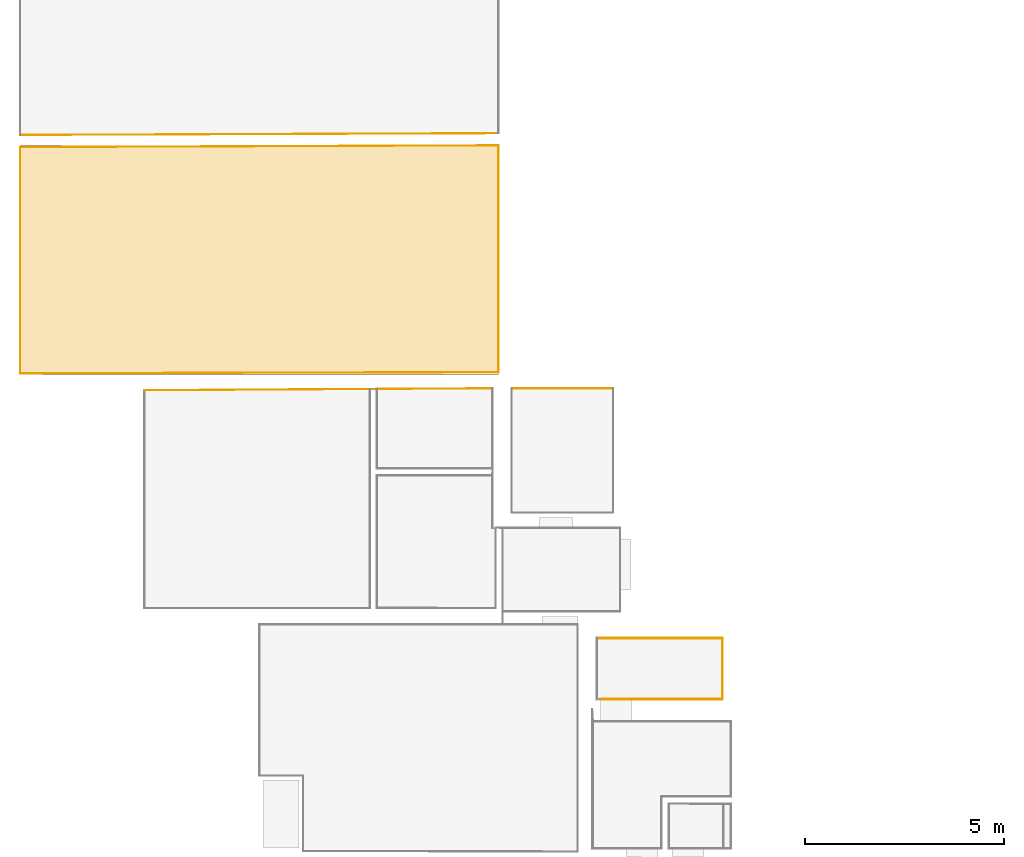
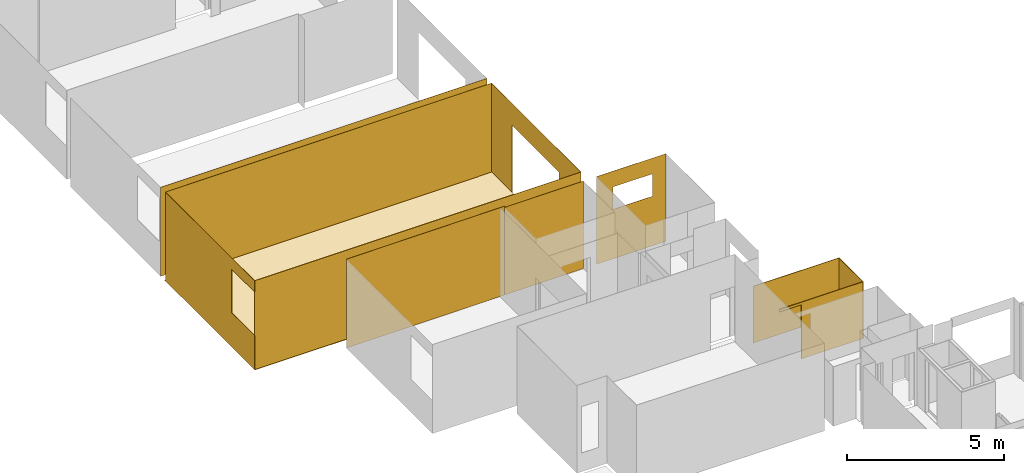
# One storey, part 15 of 33: 12 coverings, 4 openings.
"""IFC2X3 building model written with IfcOpenShell, lengths in millimetres."""

import ifcopenshell
import ifcopenshell.guid

model = None  # the IFC model being written
_history = None  # IfcOwnerHistory: only IFC2X3 demands one
_inside = {}  # id of a spatial element -> (the spatial element, [elements in it])
_under = {}  # id of a project, library or spatial element -> (it, [spatial elements below it])
_declared = {}  # id of a project -> (the project, [libraries it declares])
_typed = {}  # id of a type object -> (the type object, [elements of that type])
_made_of = {}  # id of a material, layer set ... -> (it, [elements and type objects made of it])


def new_model(schema):
    """Start an empty IFC model of exactly this schema.

    Asked for "IFC4X3", IfcOpenShell would pick the latest addendum, in which some entities
    have other attributes; the version numbers below select the first issue.
    IFC2X3 requires an IfcOwnerHistory on every rooted entity: one is made here for all.
    """
    global model, _history
    if schema == "IFC4X3":
        model = ifcopenshell.file(schema_version=(4, 3, 0, 0))
    else:
        model = ifcopenshell.file(schema=schema)
    _inside.clear()
    _under.clear()
    _declared.clear()
    _typed.clear()
    _made_of.clear()
    _history = None
    if model.schema == "IFC2X3":
        org = make("IfcOrganization", Name="unknown")
        user = make(
            "IfcPersonAndOrganization",
            ThePerson=make("IfcPerson", FamilyName="unknown"),
            TheOrganization=org,
        )
        app = make(
            "IfcApplication",
            ApplicationDeveloper=org,
            Version="unknown",
            ApplicationFullName="unknown",
            ApplicationIdentifier="unknown",
        )
        _history = make(
            "IfcOwnerHistory",
            OwningUser=user,
            OwningApplication=app,
            ChangeAction="ADDED",
            CreationDate=0,
        )
    return model


def make(cls, **values):
    """One entity of the class cls with the attributes given. An attribute that is None is left unset."""
    return model.create_entity(
        cls, **{name: value for name, value in values.items() if value is not None}
    )


def entity(cls, *values):
    """Any entity or typed value of the class cls, its attributes in the order of the schema. None: left unset."""
    e = model.create_entity(cls)
    for i, value in enumerate(values):
        if value is not None:
            e[i] = value
    return e


def rooted(cls, **values):
    """An entity with a GlobalId (a new one), such as an element, a storey or a relation."""
    return make(cls, GlobalId=ifcopenshell.guid.new(), OwnerHistory=_history, **values)


def si_unit(unit_type, name, prefix=None):
    """IfcSIUnit, for example si_unit("LENGTHUNIT", "METRE", prefix="MILLI")."""
    return make("IfcSIUnit", UnitType=unit_type, Prefix=prefix, Name=name)


def converted_unit(unit_type, name, factor, base, dimensions=None, offset=None):
    """IfcConversionBasedUnit, such as the inch: factor (a typed value) times the base unit."""
    return make(
        "IfcConversionBasedUnit"
        if offset is None
        else "IfcConversionBasedUnitWithOffset",
        ConversionOffset=offset,
        Dimensions=None
        if dimensions is None
        else entity("IfcDimensionalExponents", *dimensions),
        UnitType=unit_type,
        Name=name,
        ConversionFactor=make(
            "IfcMeasureWithUnit", ValueComponent=factor, UnitComponent=base
        ),
    )


def derived_unit(unit_type, elements):
    """IfcDerivedUnit: a product of units, each with its exponent."""
    return make(
        "IfcDerivedUnit",
        Elements=[
            make("IfcDerivedUnitElement", Unit=unit, Exponent=power)
            for unit, power in elements
        ],
        UnitType=unit_type,
    )


def money_unit(currency):
    """IfcMonetaryUnit."""
    return make("IfcMonetaryUnit", Currency=currency)


def assignment(units):
    """IfcUnitAssignment: the units of a project."""
    return None if units is None else make("IfcUnitAssignment", Units=units)


def point(xyz):
    """IfcCartesianPoint."""
    return None if xyz is None else make("IfcCartesianPoint", Coordinates=xyz)


def direction(xyz):
    """IfcDirection."""
    return None if xyz is None else make("IfcDirection", DirectionRatios=xyz)


def frame(location, z_axis=None, x_axis=None):
    """IfcAxis2Placement3D, a coordinate frame: its origin and axes. An axis left out is left unset."""
    return make(
        "IfcAxis2Placement3D",
        Location=point(location),
        Axis=direction(z_axis),
        RefDirection=direction(x_axis),
    )


def frame_2d(location, x_axis=None):
    """IfcAxis2Placement2D, a coordinate frame in the plane: its origin and x axis."""
    return make(
        "IfcAxis2Placement2D", Location=point(location), RefDirection=direction(x_axis)
    )


def origin_with_axes():
    """The frame at (0, 0, 0) with the z axis (0, 0, 1) and the x axis (1, 0, 0) written out."""
    return frame((0.0, 0.0, 0.0), z_axis=(0.0, 0.0, 1.0), x_axis=(1.0, 0.0, 0.0))


def origin_2d_with_axis():
    """The frame at (0, 0) in the plane with the x axis (1, 0) written out."""
    return frame_2d((0.0, 0.0), x_axis=(1.0, 0.0))


def place(relative_to, where):
    """IfcLocalPlacement: puts the frame where relative to a parent placement (None: the world)."""
    return make(
        "IfcLocalPlacement", PlacementRelTo=relative_to, RelativePlacement=where
    )


def context(
    kind, dimensions, precision=None, world=None, true_north=None, identifier=None
):
    """IfcGeometricRepresentationContext, for example the 3D "Model" context."""
    return make(
        "IfcGeometricRepresentationContext",
        ContextIdentifier=identifier,
        ContextType=kind,
        CoordinateSpaceDimension=dimensions,
        Precision=precision,
        WorldCoordinateSystem=world,
        TrueNorth=true_north,
    )


def subcontext(parent, identifier, kind, view, scale=None):
    """IfcGeometricRepresentationSubContext, for example "Body" below "Model"."""
    return make(
        "IfcGeometricRepresentationSubContext",
        ContextIdentifier=identifier,
        ContextType=kind,
        ParentContext=parent,
        TargetScale=scale,
        TargetView=view,
    )


def project(units=None, contexts=None):
    """IfcProject with its units and contexts."""
    return rooted(
        "IfcProject",
        Name="project",
        RepresentationContexts=contexts,
        UnitsInContext=assignment(units),
    )


def spatial(cls, under=None, at=None, **own):
    """A site, building, storey or space (cls), placed at a placement, below another one or the project."""
    s = rooted(cls, ObjectPlacement=at, **own)
    if under is not None:
        _under.setdefault(under.id(), (under, []))[1].append(s)
    return s


def polyline(points):
    """IfcPolyline through the points."""
    return make("IfcPolyline", Points=[point(p) for p in points])


def profile(cls, at=None, kind="AREA", **sizes):
    """A parametric profile (cls). Its sizes go by their IFC names, for example OverallWidth=200.0."""
    return make(cls, ProfileType=kind, Position=at, **sizes)


def rectangle(**sizes):
    """IfcRectangleProfileDef."""
    return profile("IfcRectangleProfileDef", **sizes)


def outline(outer, holes=None, kind="AREA"):
    """IfcArbitraryClosedProfileDef: a profile drawn as a closed curve; with holes, ...WithVoids."""
    if holes is None:
        return make("IfcArbitraryClosedProfileDef", ProfileType=kind, OuterCurve=outer)
    return make(
        "IfcArbitraryProfileDefWithVoids",
        ProfileType=kind,
        OuterCurve=outer,
        InnerCurves=holes,
    )


def extrude(swept, where, along, depth):
    """IfcExtrudedAreaSolid: the profile swept, set in the frame where, extruded along a direction by depth."""
    return make(
        "IfcExtrudedAreaSolid",
        SweptArea=swept,
        Position=where,
        ExtrudedDirection=direction(along),
        Depth=depth,
    )


def shape(context_of_items, identifier, shape_type, items):
    """IfcShapeRepresentation: the items that make up one representation, for example the "Body"."""
    return make(
        "IfcShapeRepresentation",
        ContextOfItems=context_of_items,
        RepresentationIdentifier=identifier,
        RepresentationType=shape_type,
        Items=items,
    )


def material(Name=None, Category=None):
    """IfcMaterial."""
    return make("IfcMaterial", Name=Name, Category=Category)


def made_of(thing, what):
    """Note that an element or type object is made of a material, layer set ...; save() writes the relation."""
    if what is not None:
        _made_of.setdefault(what.id(), (what, []))[1].append(thing)
    return thing


def type_object(cls, material=None, **own):
    """A type object (cls), such as IfcWallType, which elements share."""
    return made_of(rooted(cls, **own), material)


def element(
    cls,
    number,
    at=None,
    inside=None,
    cuts=None,
    type_object=None,
    material=None,
    context=None,
    identifier="Body",
    shape_type=None,
    held_by="IfcProductDefinitionShape",
    body=None,
    shapes=None,
    **own,
):
    """One element of the class cls, such as IfcWall. Its Tag is "e" and its number.

    at: its placement. inside: the storey or other place that contains it. cuts: it is an
    opening in that element (IfcRelVoidsElement). A single representation is given by context,
    identifier, shape_type and body (its items); several are given by shapes. held_by: the class
    of the entity that holds the representations. save() writes the other relations.
    """
    e = rooted(cls, Tag="e%d" % number, ObjectPlacement=at, **own)
    if body is not None:
        shapes = [shape(context, identifier, shape_type, body)]
    if shapes is not None:
        e.Representation = make(held_by, Representations=shapes)
    if inside is not None:
        _inside.setdefault(inside.id(), (inside, []))[1].append(e)
    if cuts is not None:
        rooted(
            "IfcRelVoidsElement", RelatingBuildingElement=cuts, RelatedOpeningElement=e
        )
    if type_object is not None:
        _typed.setdefault(type_object.id(), (type_object, []))[1].append(e)
    return made_of(e, material)


def aggregate(whole, parts):
    """IfcRelAggregates: a whole, such as a stair, and the parts it consists of."""
    return rooted("IfcRelAggregates", RelatingObject=whole, RelatedObjects=parts)


def save(model, path):
    """Write the relations noted so far, then the file.

    IfcRelAggregates (storeys below a building ...), IfcRelContainedInSpatialStructure (elements
    in a storey), IfcRelDefinesByType, IfcRelAssociatesMaterial and IfcRelDeclares: one each for
    every whole, place, type object, material and project.
    """
    for whole, parts in _under.values():
        aggregate(whole, parts)
    for where, things in _inside.values():
        rooted(
            "IfcRelContainedInSpatialStructure",
            RelatedElements=things,
            RelatingStructure=where,
        )
    for kind, things in _typed.values():
        rooted("IfcRelDefinesByType", RelatedObjects=things, RelatingType=kind)
    for what, things in _made_of.values():
        rooted("IfcRelAssociatesMaterial", RelatedObjects=things, RelatingMaterial=what)
    for by, libraries in _declared.values():
        rooted("IfcRelDeclares", RelatingContext=by, RelatedDefinitions=libraries)
    model.write(path)


model = new_model("IFC2X3")

# Units and contexts
model_context = context("Model", 3, precision=0.01, world=origin_with_axes(), true_north=direction((0.0, 1.0)))
body_context = subcontext(model_context, "Body", "Model", "MODEL_VIEW")
ifc_project = project(units=[si_unit("LENGTHUNIT", "METRE", prefix="MILLI"), si_unit("AREAUNIT", "SQUARE_METRE"), si_unit("VOLUMEUNIT", "CUBIC_METRE"), converted_unit("PLANEANGLEUNIT", "DEGREE", entity("IfcPlaneAngleMeasure", 0.0174532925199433), si_unit("PLANEANGLEUNIT", "RADIAN"), dimensions=[0, 0, 0, 0, 0, 0, 0]), money_unit("EUR"), converted_unit("TIMEUNIT", "Year", entity("IfcTimeMeasure", 31556926.0), si_unit("TIMEUNIT", "SECOND"), dimensions=[0, 0, 1, 0, 0, 0, 0]), si_unit("MASSUNIT", "GRAM", prefix="KILO"), si_unit("THERMODYNAMICTEMPERATUREUNIT", "DEGREE_CELSIUS"), si_unit("LUMINOUSINTENSITYUNIT", "LUMEN"), si_unit("ENERGYUNIT", "JOULE", prefix="MEGA"), derived_unit("THERMALCONDUCTANCEUNIT", [(si_unit("POWERUNIT", "WATT"), 1), (si_unit("LENGTHUNIT", "METRE"), -1), (si_unit("THERMODYNAMICTEMPERATUREUNIT", "KELVIN"), -1)]), derived_unit("SPECIFICHEATCAPACITYUNIT", [(si_unit("ENERGYUNIT", "JOULE"), 1), (si_unit("MASSUNIT", "GRAM", prefix="KILO"), -1), (si_unit("THERMODYNAMICTEMPERATUREUNIT", "KELVIN"), -1)]), derived_unit("MASSDENSITYUNIT", [(si_unit("MASSUNIT", "GRAM", prefix="KILO"), 1), (si_unit("VOLUMEUNIT", "CUBIC_METRE"), -1)])], contexts=[model_context])

# Site, building, storey
site_placement = place(None, origin_with_axes())
site = spatial("IfcSite", under=ifc_project, at=site_placement, Name="Paldiski mnt 245/1, Tallinn, Harjumaa", CompositionType="COMPLEX")
building_placement = place(site_placement, origin_with_axes())
building = spatial("IfcBuilding", under=site, at=building_placement, Name="RKAS Hoone üldnimetus (kasutust iseloomustav) -> IFC Project Manager -> SOLIBRI", CompositionType="ELEMENT")
storey_placement = place(building_placement, origin_with_axes())
storey = spatial("IfcBuildingStorey", under=building, at=storey_placement, Name="Esimene korrus", CompositionType="ELEMENT", Elevation=0.0)

# Coverings
ifc_material_1 = material(Name="SA- Värv SM5(valge)")
covering_type_1 = type_object("IfcCoveringType", Name="SA- Värv SM5(valge) 5", PredefinedType="CLADDING")
covering_1_placement = place(storey_placement, frame((-59269.99999999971, 11699.82238360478, 0.0), z_axis=(0.0, 0.0, 1.0), x_axis=(0.9999841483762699, 0.005630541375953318, 0.0)))
element("IfcCovering", 1, at=covering_1_placement, inside=storey, type_object=covering_type_1, material=ifc_material_1, Name="SM5", PredefinedType="CLADDING", context=body_context, shape_type="SweptSolid", body=[
    extrude(outline(polyline([(-0.03507542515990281, -4.999999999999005), (5660.064017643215, -5.000000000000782), (5830.094865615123, 0.0), (-0.006840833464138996, 0.0), (-0.03507542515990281, -4.999999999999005)])), origin_with_axes(), (0.0, 0.0, 1.0), 3450.0),
])
covering_2_placement = place(storey_placement, frame((-50539.99758655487, 11748.97780259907, 0.0), z_axis=(0.0, 0.0, 1.0), x_axis=(-0.9999841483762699, -0.005630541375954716, 0.0)))
element("IfcCovering", 2, at=covering_2_placement, inside=storey, type_object=covering_type_1, material=ifc_material_1, Name="SM5", PredefinedType="CLADDING", context=body_context, shape_type="SweptSolid", body=[
    extrude(outline(polyline([(0.0, 0.0), (2900.045934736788, 0.0), (2900.045934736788, 5.000000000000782), (0.0, 5.000000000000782), (0.0, 0.0)])), origin_with_axes(), (0.0, 0.0, 1.0), 3400.0),
])

# Covering, opening
covering_3_placement = place(storey_placement, frame((-47509.9999999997, 11749.82872435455, 0.0), z_axis=(0.0, 0.0, 1.0), x_axis=(-1.0, 0.0, 0.0)))
covering_3 = element("IfcCovering", 3, at=covering_3_placement, inside=storey, type_object=covering_type_1, material=ifc_material_1, Name="SM5", PredefinedType="CLADDING", context=body_context, shape_type="SweptSolid", body=[
    extrude(outline(polyline([(0.0, 0.0), (2544.997586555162, 0.0), (2544.997586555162, 5.000000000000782), (0.0, 5.000000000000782), (0.0, 0.0)])), origin_with_axes(), (0.0, 0.0, 1.0), 3400.0),
])
opening_1_placement = place(covering_3_placement, frame((-47509.9999999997, 11749.82872435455, 0.0), z_axis=(0.0, 0.0, 1.0), x_axis=(-1.0, 0.0, 0.0)))
element("IfcOpeningElement", 4, at=opening_1_placement, cuts=covering_3, Name="AVA", ObjectType="OPENING", context=body_context, shape_type="SweptSolid", body=[
    extrude(rectangle(XDim=1450.000000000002, YDim=869.9999999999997, at=origin_2d_with_axis()), frame((-48727.25115915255, 11754.82872435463, 2355.0), z_axis=(0.0, 1.0, 0.0), x_axis=(-1.0, 0.0, 0.0)), (0.0, 0.0, -1.0), 15.00000000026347),
])

# Covering
ifc_material_2 = material(Name="SA- PM-8 EPO lakk")
covering_type_2 = type_object("IfcCoveringType", Name="SA- PM-8 EPO lakk 1", PredefinedType="FLOORING")
covering_4_placement = place(storey_placement, frame((-62389.9999999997, 12099.82872435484, 0.0), z_axis=(0.0, 0.0, 1.0), x_axis=(1.0, 0.0, 0.0)))
element("IfcCovering", 5, at=covering_4_placement, inside=storey, type_object=covering_type_2, material=ifc_material_2, Name="PM-8", PredefinedType="FLOORING", context=body_context, shape_type="SweptSolid", body=[
    extrude(outline(polyline([(0.0, 0.0), (12000.63242529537, 0.0), (12000.63242529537, 5740.000324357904), (0.0, 5740.000324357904), (0.0, 0.0)])), origin_with_axes(), (0.0, 0.0, 1.0), 1.0),
])

# Covering, opening
ifc_material_3 = material(Name="SA- Värv SM12(tolmutõke)")
covering_type_3 = type_object("IfcCoveringType", Name="SA- Värv SM12(tolmutõke) 5", PredefinedType="CLADDING")
covering_5_placement = place(storey_placement, frame((-62389.99999999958, 17796.40349645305, 0.0), z_axis=(0.0, 0.0, 1.0), x_axis=(0.0, -1.0, 0.0)))
covering_5 = element("IfcCovering", 6, at=covering_5_placement, inside=storey, type_object=covering_type_3, material=ifc_material_3, Name="SM12", PredefinedType="CLADDING", context=body_context, shape_type="SweptSolid", body=[
    extrude(outline(polyline([(0.0, 0.0), (5676.574772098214, 0.0), (5676.574772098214, 5.000000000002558), (0.0, 5.000000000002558), (0.0, 0.0)])), origin_with_axes(), (0.0, 0.0, 1.0), 3450.0),
])
opening_2_placement = place(covering_5_placement, frame((17796.40349645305, 62389.99999999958, 0.0), z_axis=(0.0, 0.0, 1.0), x_axis=(0.0, 1.0, 0.0)))
element("IfcOpeningElement", 7, at=opening_2_placement, cuts=covering_5, Name="AVA", ObjectType="OPENING", context=body_context, shape_type="SweptSolid", body=[
    extrude(rectangle(XDim=1474.979123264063, YDim=1685.508222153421, at=origin_2d_with_axis()), frame((-62394.99999999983, 12842.33916272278, 2167.245888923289), z_axis=(-1.0, 0.0, 0.0), x_axis=(0.0, -1.0, 0.0)), (0.0, 0.0, -1.0), 15.00000000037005),
])

# Coverings
covering_6_placement = place(storey_placement, frame((-62389.9999999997, 12119.82872435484, 0.0), z_axis=(0.0, 0.0, 1.0), x_axis=(0.9999968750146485, 0.002499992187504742, 0.0)))
element("IfcCovering", 8, at=covering_6_placement, inside=storey, type_object=covering_type_3, material=ifc_material_3, Name="SM12", PredefinedType="CLADDING", context=body_context, shape_type="SweptSolid", body=[
    extrude(outline(polyline([(0.0, 0.0), (12000.0374999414, 0.0), (12000.0499999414, 5.000000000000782), (0.0, 5.000000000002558), (0.0, 0.0)])), origin_with_axes(), (0.0, 0.0, 1.0), 3450.0),
])
covering_7_placement = place(storey_placement, frame((-50389.36757470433, 17839.82904871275, 0.0), z_axis=(0.0, 0.0, 1.0), x_axis=(-0.9999934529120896, -0.00361858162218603, 0.0)))
element("IfcCovering", 9, at=covering_7_placement, inside=storey, type_object=covering_type_3, material=ifc_material_3, Name="SM12", PredefinedType="CLADDING", context=body_context, shape_type="SweptSolid", body=[
    extrude(outline(polyline([(0.0, 0.0), (12000.71099500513, 0.0), (12000.7290880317, 5.000000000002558), (5.018683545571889, 5.000000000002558), (0.0, 0.0)])), origin_with_axes(), (0.0, 0.0, 1.0), 3450.0),
])

# Covering, opening
covering_8_placement = place(storey_placement, frame((-50389.9999999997, 12149.82872435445, 0.0), z_axis=(0.0, 0.0, 1.0), x_axis=(0.0001111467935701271, 0.9999999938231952, 0.0)))
covering_8 = element("IfcCovering", 10, at=covering_8_placement, inside=storey, type_object=covering_type_3, material=ifc_material_3, Name="SM12", PredefinedType="CLADDING", context=body_context, shape_type="SweptSolid", body=[
    extrude(outline(polyline([(0.0, 0.0), (5690.000359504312, 0.0), (5684.98167595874, 5.000000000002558), (0.0, 5.000000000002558), (0.0, 0.0)])), origin_with_axes(), (0.0, 0.0, 1.0), 3450.0),
])
opening_3_placement = place(covering_8_placement, frame((-12144.22796237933, -50391.35010325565, 0.0), z_axis=(0.0, 0.0, 1.0), x_axis=(0.0001111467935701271, -0.9999999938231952, 0.0)))
element("IfcOpeningElement", 11, at=opening_3_placement, cuts=covering_8, Name="AVA", ObjectType="OPENING", context=body_context, shape_type="SweptSolid", body=[
    extrude(rectangle(XDim=2988.048343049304, YDim=2600.0, at=origin_2d_with_axis()), frame((-50383.73514943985, 15035.80188314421, 1300.0), z_axis=(0.9999999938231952, -0.0001111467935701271, 0.0), x_axis=(0.0001111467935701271, 0.9999999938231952, 0.0)), (0.0, 0.0, -1.0), 16.8972758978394),
])

# Coverings
covering_9_placement = place(storey_placement, frame((-62389.99999999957, 18096.40546059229, 0.0), z_axis=(0.0, 0.0, 1.0), x_axis=(0.9999934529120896, 0.00361858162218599, 0.0)))
element("IfcCovering", 12, at=covering_9_placement, inside=storey, type_object=covering_type_3, material=ifc_material_3, Name="SM12", PredefinedType="CLADDING", context=body_context, shape_type="SweptSolid", body=[
    extrude(outline(polyline([(0.0, 0.0), (11999.62541341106, 0.0), (11999.62541341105, 4.999999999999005), (0.01809302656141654, 4.999999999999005), (0.0, 0.0)])), origin_with_axes(), (0.0, 0.0, 1.0), 3450.0),
])
ifc_material_4 = material(Name="SA- Laudis SM3(vert. laudis)")
covering_type_4 = type_object("IfcCoveringType", Name="SA- Laudis SM3(vert. laudis) 18", PredefinedType="CLADDING")
covering_10_placement = place(storey_placement, frame((-47932.99999999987, 5493.000000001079, 0.0), z_axis=(0.0, 0.0, 1.0), x_axis=(1.0, 0.0, 0.0)))
element("IfcCovering", 13, at=covering_10_placement, inside=storey, type_object=covering_type_4, material=ifc_material_4, Name="SM3", PredefinedType="CLADDING", context=body_context, shape_type="SweptSolid", body=[
    extrude(outline(polyline([(0.0, -17.99999999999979), (3165.449541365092, -17.99999999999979), (3165.449541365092, 0.0), (0.0, 0.0), (0.0, -17.99999999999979)])), origin_with_axes(), (0.0, 0.0, 1.0), 2200.0),
])
covering_11_placement = place(storey_placement, frame((-44767.55045863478, 5493.000000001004, 0.0), z_axis=(0.0, 0.0, 1.0), x_axis=(0.0, -1.0, 0.0)))
element("IfcCovering", 14, at=covering_11_placement, inside=storey, type_object=covering_type_4, material=ifc_material_4, Name="SM3", PredefinedType="CLADDING", context=body_context, shape_type="SweptSolid", body=[
    extrude(outline(polyline([(0.0, -18.00000000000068), (1546.171275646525, -18.00000000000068), (1546.171275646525, 0.0), (0.0, 0.0), (0.0, -18.00000000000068)])), origin_with_axes(), (0.0, 0.0, 1.0), 2200.0),
])

# Covering, opening
covering_12_placement = place(storey_placement, frame((-44767.55045863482, 3946.828724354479, 0.0), z_axis=(0.0, 0.0, 1.0), x_axis=(-1.0, 0.0, 0.0)))
covering_12 = element("IfcCovering", 15, at=covering_12_placement, inside=storey, type_object=covering_type_4, material=ifc_material_4, Name="SM3", PredefinedType="CLADDING", context=body_context, shape_type="SweptSolid", body=[
    extrude(outline(polyline([(0.0, -17.99999999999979), (3072.449541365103, -17.99999999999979), (3072.449541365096, 0.0), (0.0, 0.0), (0.0, -17.99999999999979)])), origin_with_axes(), (0.0, 0.0, 1.0), 2200.0),
])
opening_4_placement = place(covering_12_placement, frame((-44767.55045863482, 3946.828724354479, 0.0), z_axis=(0.0, 0.0, 1.0), x_axis=(-1.0, 0.0, 0.0)))
element("IfcOpeningElement", 16, at=opening_4_placement, cuts=covering_12, Name="AVA", ObjectType="OPENING", context=body_context, shape_type="SweptSolid", body=[
    extrude(rectangle(XDim=799.9999999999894, YDim=2501.548616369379, at=origin_2d_with_axis()), frame((-47439.99999999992, 3982.828724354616, 849.2256918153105), z_axis=(0.0, 1.0, 0.0), x_axis=(-1.0, 0.0, 0.0)), (0.0, 0.0, -1.0), 54.00000000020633),
])

save(model, "model.ifc")
